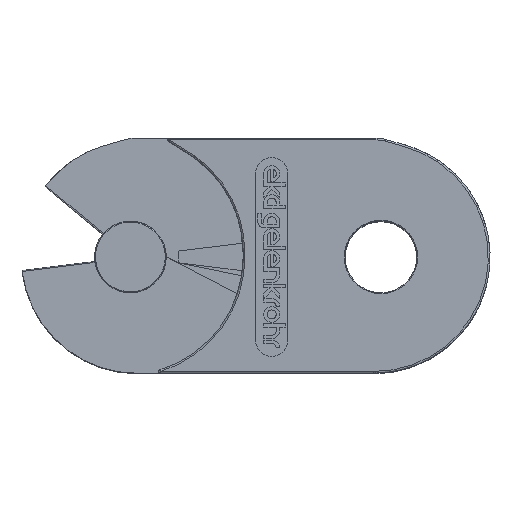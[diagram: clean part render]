
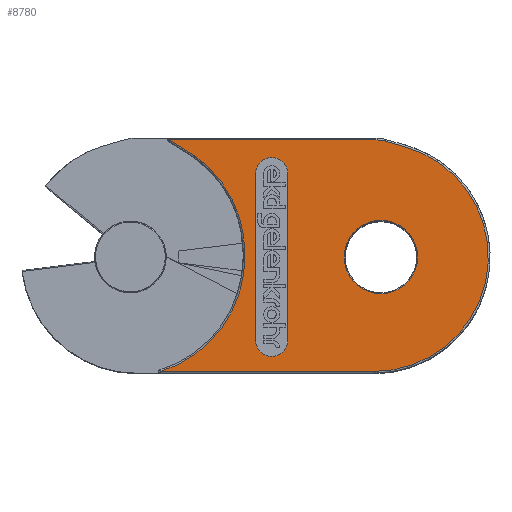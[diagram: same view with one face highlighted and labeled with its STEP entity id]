
A CAD part, top view. The second image highlights one B-rep face of the part: STEP entity #8780.
In plain terms, the highlighted free-form (B-spline) face has degree [1, 1] with [2, 2] control points.
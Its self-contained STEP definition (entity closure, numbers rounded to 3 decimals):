
#8291=CARTESIAN_POINT('',(131.837,195.231,205.528));
#8292=VERTEX_POINT('',#8291);
#8299=CARTESIAN_POINT('',(131.837,148.706,205.528));
#8300=VERTEX_POINT('',#8299);
#8301=CARTESIAN_POINT('',(131.837,148.706,205.528));
#8302=DIRECTION('',(0.0,1.0,0.0));
#8303=VECTOR('',#8302,46.525);
#8304=LINE('',#8301,#8303);
#8305=EDGE_CURVE('',#8300,#8292,#8304,.T.);
#8323=CARTESIAN_POINT('',(140.837,148.706,205.528));
#8324=VERTEX_POINT('',#8323);
#8325=CARTESIAN_POINT('',(136.337,148.706,205.528));
#8326=DIRECTION('',(0.0,0.0,-1.0));
#8327=DIRECTION('',(-1.0,0.0,0.0));
#8328=AXIS2_PLACEMENT_3D('',#8325,#8326,#8327);
#8329=CIRCLE('',#8328,4.5);
#8330=EDGE_CURVE('',#8324,#8300,#8329,.T.);
#8348=CARTESIAN_POINT('',(140.837,195.231,205.528));
#8349=VERTEX_POINT('',#8348);
#8350=CARTESIAN_POINT('',(140.837,195.231,205.528));
#8351=DIRECTION('',(0.0,-1.0,0.0));
#8352=VECTOR('',#8351,46.525);
#8353=LINE('',#8350,#8352);
#8354=EDGE_CURVE('',#8349,#8324,#8353,.T.);
#8372=CARTESIAN_POINT('',(136.337,195.231,205.528));
#8373=DIRECTION('',(0.0,0.0,-1.0));
#8374=DIRECTION('',(1.0,0.0,0.0));
#8375=AXIS2_PLACEMENT_3D('',#8372,#8373,#8374);
#8376=CIRCLE('',#8375,4.5);
#8377=EDGE_CURVE('',#8292,#8349,#8376,.T.);
#8688=CARTESIAN_POINT('',(105.249,204.668,205.528));
#8689=CARTESIAN_POINT('',(196.837,204.668,205.528));
#8690=CARTESIAN_POINT('',(105.249,139.968,205.528));
#8691=CARTESIAN_POINT('',(196.837,139.968,205.528));
#8692=B_SPLINE_SURFACE_WITH_KNOTS('',1,1,((#8688,#8690),(#8689,#8691)),.UNSPECIFIED.,.F.,.F.,.U.,(2,2),(2,2),(0.0,91.588),(0.0,64.7),.UNSPECIFIED.);
#8693=CARTESIAN_POINT('',(164.837,139.968,205.528));
#8694=VERTEX_POINT('',#8693);
#8695=CARTESIAN_POINT('',(173.507,202.771,205.528));
#8696=VERTEX_POINT('',#8695);
#8697=CARTESIAN_POINT('',(164.837,171.968,205.528));
#8698=DIRECTION('',(0.,0.,1.0));
#8699=DIRECTION('',(0.991,-0.137,0.));
#8700=AXIS2_PLACEMENT_3D('',#8697,#8698,#8699);
#8701=CIRCLE('',#8700,32.);
#8702=EDGE_CURVE('',#8694,#8696,#8701,.T.);
#8703=ORIENTED_EDGE('',*,*,#8702,.T.);
#8704=CARTESIAN_POINT('',(168.03,204.313,205.528));
#8705=VERTEX_POINT('',#8704);
#8706=CARTESIAN_POINT('',(173.507,202.771,205.528));
#8707=DIRECTION('',(-0.963,0.271,0.0));
#8708=VECTOR('',#8707,5.69);
#8709=LINE('',#8706,#8708);
#8710=EDGE_CURVE('',#8696,#8705,#8709,.T.);
#8711=ORIENTED_EDGE('',*,*,#8710,.T.);
#8712=CARTESIAN_POINT('',(165.456,204.668,205.528));
#8713=VERTEX_POINT('',#8712);
#8714=CARTESIAN_POINT('',(165.456,195.168,205.528));
#8715=DIRECTION('',(0.,0.,1.));
#8716=DIRECTION('',(0.137,0.991,0.));
#8717=AXIS2_PLACEMENT_3D('',#8714,#8715,#8716);
#8718=CIRCLE('',#8717,9.5);
#8719=EDGE_CURVE('',#8705,#8713,#8718,.T.);
#8720=ORIENTED_EDGE('',*,*,#8719,.T.);
#8721=CARTESIAN_POINT('',(107.835,204.668,205.528));
#8722=VERTEX_POINT('',#8721);
#8723=CARTESIAN_POINT('',(165.456,204.668,205.528));
#8724=DIRECTION('',(-1.0,0.0,0.0));
#8725=VECTOR('',#8724,57.621);
#8726=LINE('',#8723,#8725);
#8727=EDGE_CURVE('',#8713,#8722,#8726,.T.);
#8728=ORIENTED_EDGE('',*,*,#8727,.T.);
#8729=CARTESIAN_POINT('',(114.841,200.205,205.528));
#8730=VERTEX_POINT('',#8729);
#8731=CARTESIAN_POINT('',(107.835,204.668,205.528));
#8732=DIRECTION('',(0.843,-0.537,0.));
#8733=VECTOR('',#8732,8.308);
#8734=LINE('',#8731,#8733);
#8735=EDGE_CURVE('',#8722,#8730,#8734,.T.);
#8736=ORIENTED_EDGE('',*,*,#8735,.T.);
#8737=CARTESIAN_POINT('',(128.833,172.468,205.528));
#8738=VERTEX_POINT('',#8737);
#8739=CARTESIAN_POINT('',(95.337,172.968,205.528));
#8740=DIRECTION('',(0.,0.,-1.0));
#8741=DIRECTION('',(0.893,0.45,0.));
#8742=AXIS2_PLACEMENT_3D('',#8739,#8740,#8741);
#8743=CIRCLE('',#8742,33.5);
#8744=EDGE_CURVE('',#8730,#8738,#8743,.T.);
#8745=ORIENTED_EDGE('',*,*,#8744,.T.);
#8746=CARTESIAN_POINT('',(105.249,139.968,205.528));
#8747=VERTEX_POINT('',#8746);
#8748=CARTESIAN_POINT('',(95.337,171.968,205.528));
#8749=DIRECTION('',(0.,0.,-1.));
#8750=DIRECTION('',(0.809,-0.587,0.));
#8751=AXIS2_PLACEMENT_3D('',#8748,#8749,#8750);
#8752=CIRCLE('',#8751,33.5);
#8753=EDGE_CURVE('',#8738,#8747,#8752,.T.);
#8754=ORIENTED_EDGE('',*,*,#8753,.T.);
#8755=CARTESIAN_POINT('',(105.249,139.968,205.528));
#8756=DIRECTION('',(1.0,0.0,0.0));
#8757=VECTOR('',#8756,59.588);
#8758=LINE('',#8755,#8757);
#8759=EDGE_CURVE('',#8747,#8694,#8758,.T.);
#8760=ORIENTED_EDGE('',*,*,#8759,.T.);
#8761=EDGE_LOOP('',(#8703,#8711,#8720,#8728,#8736,#8745,#8754,#8760));
#8762=FACE_OUTER_BOUND('',#8761,.T.);
#8763=CARTESIAN_POINT('',(177.087,171.968,205.528));
#8764=VERTEX_POINT('',#8763);
#8765=CARTESIAN_POINT('',(166.837,171.968,205.528));
#8766=DIRECTION('',(0.0,0.0,-1.0));
#8767=DIRECTION('',(-1.0,0.0,0.0));
#8768=AXIS2_PLACEMENT_3D('',#8765,#8766,#8767);
#8769=CIRCLE('',#8768,10.25);
#8770=EDGE_CURVE('',#8764,#8764,#8769,.T.);
#8771=ORIENTED_EDGE('',*,*,#8770,.T.);
#8772=EDGE_LOOP('',(#8771));
#8773=FACE_BOUND('',#8772,.T.);
#8774=ORIENTED_EDGE('',*,*,#8305,.T.);
#8775=ORIENTED_EDGE('',*,*,#8377,.T.);
#8776=ORIENTED_EDGE('',*,*,#8354,.T.);
#8777=ORIENTED_EDGE('',*,*,#8330,.T.);
#8778=EDGE_LOOP('',(#8774,#8775,#8776,#8777));
#8779=FACE_BOUND('',#8778,.T.);
#8780=ADVANCED_FACE('',(#8762,#8773,#8779),#8692,.F.);
